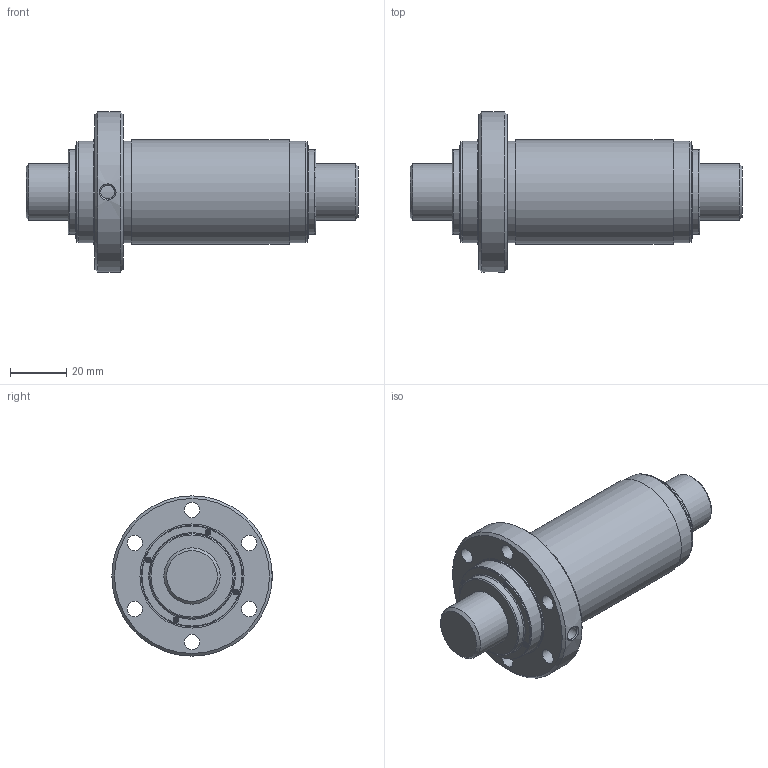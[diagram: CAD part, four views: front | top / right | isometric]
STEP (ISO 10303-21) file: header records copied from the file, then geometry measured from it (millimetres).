
FILE_DESCRIPTION(/* description */ ('STEP AP203'),/* implementation_level */ '2;1');
FILE_NAME(/* name */ 'CNF2040-6ZZ+118LC7T_000_rev',/* time_stamp */ '2025-06-11T06:44:08+02:00',/* author */ ('License CC BY-ND 4.0'),/* organization */ ('CADENAS'),/* preprocessor_version */ 'ST-DEVELOPER v19.3',/* originating_system */ 'PARTsolutions',/* authorisation */ ' ');
FILE_SCHEMA (('CONFIG_CONTROL_DESIGN'));
Length unit declared in the file: millimetre
Products named in the file (3): CNF2040-6ZZ+118LC7T_000_rev; CNF2040-60ZZ0 Shaft; CNF2040-6ZZ Nut
Assembly tree (2 placements, depth 2):
  CNF2040-6ZZ+118LC7T_000_rev
    CNF2040-60ZZ0 Shaft
    CNF2040-6ZZ Nut
Bounding box: 118 x 57 x 57 mm (x, y, z)
Volume: 113639.5 mm3; surface area: 29486.5 mm2
Topology: 2 solids, 2 shells, 201 faces, 502 edges, 328 vertices
Faces by surface type: plane 123, cylinder 59, torus 12, cone 7
Full cylindrical faces by diameter (mm): 2 x8, 4.917 x1, 5.5 x6, 20 x2, 30 x2, 35.6 x2, 36 x3, 37 x2, 57 x1
Entity records: 5853 total; most frequent: CARTESIAN_POINT 1006, DIRECTION 994, ORIENTED_EDGE 910, EDGE_CURVE 455, AXIS2_PLACEMENT_3D 337, VERTEX_POINT 327, LINE 320, VECTOR 320
